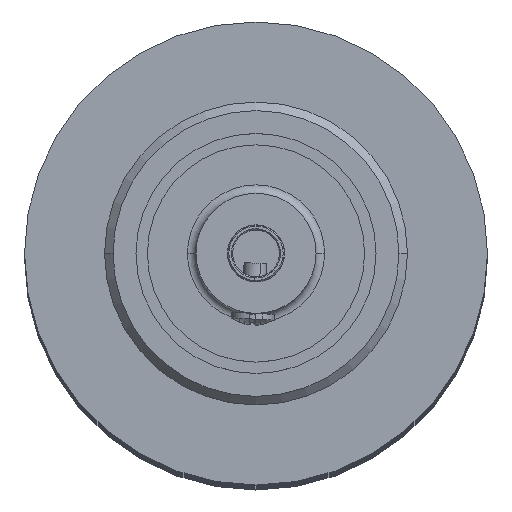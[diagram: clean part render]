
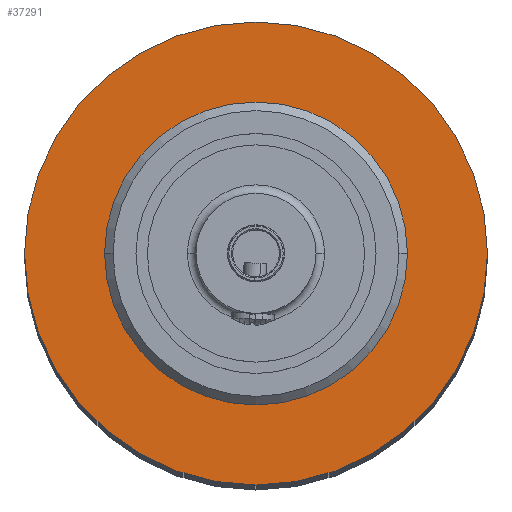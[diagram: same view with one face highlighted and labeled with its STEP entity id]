
A CAD part, top view. The second image highlights one B-rep face of the part: STEP entity #37291.
In plain terms, the highlighted planar face has unit normal (0, 0, 1) as drawn and (0, 1, 0) by its records, which use the part's own axes.
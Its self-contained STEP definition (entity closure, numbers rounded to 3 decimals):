
#37185=CARTESIAN_POINT('Vertex',(40.5,500.,0.)) ;
#37188=CARTESIAN_POINT('Axis2P3D Location',(0.,500.,0.)) ;
#37192=CARTESIAN_POINT('Vertex',(-40.5,500.,0.)) ;
#37208=CARTESIAN_POINT('Axis2P3D Location',(0.,500.,0.)) ;
#37264=CARTESIAN_POINT('Axis2P3D Location',(0.,500.,0.)) ;
#37273=CARTESIAN_POINT('Axis2P3D Location',(0.,500.,0.)) ;
#37277=CARTESIAN_POINT('Vertex',(-26.5,500.,0.)) ;
#37279=CARTESIAN_POINT('Vertex',(26.5,500.,0.)) ;
#37282=CARTESIAN_POINT('Axis2P3D Location',(0.,500.,0.)) ;
#37189=DIRECTION('Axis2P3D Direction',(0.,1.,0.)) ;
#37209=DIRECTION('Axis2P3D Direction',(0.,1.,0.)) ;
#37265=DIRECTION('Axis2P3D Direction',(0.,1.,-0.)) ;
#37266=DIRECTION('Axis2P3D XDirection',(-1.,0.,0.)) ;
#37274=DIRECTION('Axis2P3D Direction',(0.,1.,-0.)) ;
#37283=DIRECTION('Axis2P3D Direction',(0.,1.,-0.)) ;
#37190=AXIS2_PLACEMENT_3D('Circle Axis2P3D',#37188,#37189,$) ;
#37210=AXIS2_PLACEMENT_3D('Circle Axis2P3D',#37208,#37209,$) ;
#37267=AXIS2_PLACEMENT_3D('Plane Axis2P3D',#37264,#37265,#37266) ;
#37275=AXIS2_PLACEMENT_3D('Circle Axis2P3D',#37273,#37274,$) ;
#37284=AXIS2_PLACEMENT_3D('Circle Axis2P3D',#37282,#37283,$) ;
#37270=ORIENTED_EDGE('',*,*,#37194,.T.) ;
#37271=ORIENTED_EDGE('',*,*,#37212,.T.) ;
#37288=ORIENTED_EDGE('',*,*,#37281,.F.) ;
#37289=ORIENTED_EDGE('',*,*,#37286,.F.) ;
#37290=FACE_BOUND('',#37287,.T.) ;
#37291=ADVANCED_FACE('PartBody',(#37272,#37290),#37268,.T.) ;
#37191=CIRCLE('generated circle',#37190,40.5) ;
#37211=CIRCLE('generated circle',#37210,40.5) ;
#37276=CIRCLE('generated circle',#37275,26.5) ;
#37285=CIRCLE('generated circle',#37284,26.5) ;
#37194=EDGE_CURVE('',#37193,#37186,#37191,.T.) ;
#37212=EDGE_CURVE('',#37186,#37193,#37211,.T.) ;
#37281=EDGE_CURVE('',#37278,#37280,#37276,.T.) ;
#37286=EDGE_CURVE('',#37280,#37278,#37285,.T.) ;
#37269=EDGE_LOOP('',(#37270,#37271)) ;
#37287=EDGE_LOOP('',(#37288,#37289)) ;
#37272=FACE_OUTER_BOUND('',#37269,.T.) ;
#37268=PLANE('',#37267) ;
#37186=VERTEX_POINT('',#37185) ;
#37193=VERTEX_POINT('',#37192) ;
#37278=VERTEX_POINT('',#37277) ;
#37280=VERTEX_POINT('',#37279) ;
